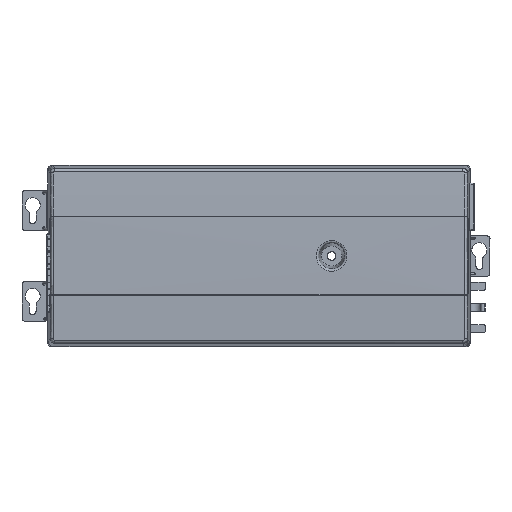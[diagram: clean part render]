
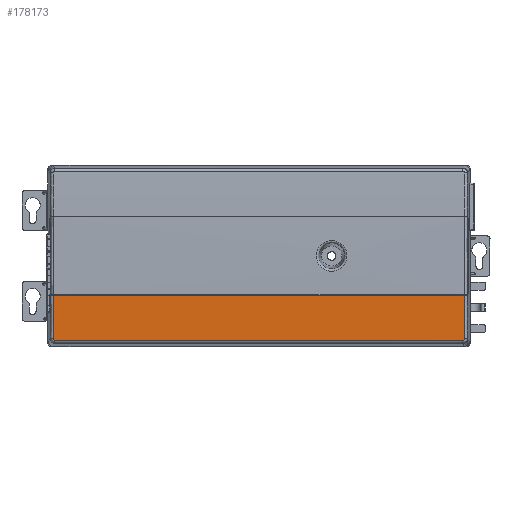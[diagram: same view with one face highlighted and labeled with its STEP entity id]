
A CAD part, top view. The second image highlights one B-rep face of the part: STEP entity #178173.
In plain terms, the highlighted cylindrical face has radius 1200 mm (diameter 2400 mm), a partial arc.
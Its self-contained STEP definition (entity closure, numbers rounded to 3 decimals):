
#1386=B_SPLINE_CURVE_WITH_KNOTS('',3,(#244995,#244996,#244997,#244998),
 .UNSPECIFIED.,.F.,.F.,(4,4),(0.,1.),.UNSPECIFIED.);
#1387=B_SPLINE_CURVE_WITH_KNOTS('',3,(#245000,#245001,#245002,#245003,#245004),
 .UNSPECIFIED.,.F.,.F.,(4,1,4),(0.009,0.067,0.156),
 .UNSPECIFIED.);
#1388=B_SPLINE_CURVE_WITH_KNOTS('',3,(#245006,#245007,#245008,#245009),
 .UNSPECIFIED.,.F.,.F.,(4,4),(0.,1.),.UNSPECIFIED.);
#1389=B_SPLINE_CURVE_WITH_KNOTS('',3,(#245010,#245011,#245012,#245013),
 .UNSPECIFIED.,.F.,.F.,(4,4),(0.,1.),.UNSPECIFIED.);
#1390=B_SPLINE_CURVE_WITH_KNOTS('',3,(#245015,#245016,#245017,#245018,#245019,
#245020),.UNSPECIFIED.,.F.,.F.,(4,1,1,4),(0.,0.067,0.112,
0.147),.UNSPECIFIED.);
#1391=B_SPLINE_CURVE_WITH_KNOTS('',3,(#245022,#245023,#245024,#245025),
 .UNSPECIFIED.,.F.,.F.,(4,4),(0.,1.),.UNSPECIFIED.);
#9422=LINE('',#240218,#21312);
#9444=LINE('',#240795,#21334);
#21312=VECTOR('',#199460,1000.);
#21334=VECTOR('',#199578,1000.);
#36489=ORIENTED_EDGE('',*,*,#72432,.F.);
#36490=ORIENTED_EDGE('',*,*,#73670,.F.);
#36491=ORIENTED_EDGE('',*,*,#73671,.F.);
#36492=ORIENTED_EDGE('',*,*,#73672,.F.);
#36493=ORIENTED_EDGE('',*,*,#72341,.F.);
#36494=ORIENTED_EDGE('',*,*,#73673,.F.);
#36495=ORIENTED_EDGE('',*,*,#73674,.F.);
#36496=ORIENTED_EDGE('',*,*,#73675,.F.);
#72341=EDGE_CURVE('',#91310,#91311,#9422,.T.);
#72432=EDGE_CURVE('',#91382,#91383,#9444,.T.);
#73670=EDGE_CURVE('',#92354,#91382,#1386,.T.);
#73671=EDGE_CURVE('',#92355,#92354,#1387,.T.);
#73672=EDGE_CURVE('',#91311,#92355,#1388,.T.);
#73673=EDGE_CURVE('',#92356,#91310,#1389,.T.);
#73674=EDGE_CURVE('',#92357,#92356,#1390,.T.);
#73675=EDGE_CURVE('',#91383,#92357,#1391,.T.);
#91310=VERTEX_POINT('',#240217);
#91311=VERTEX_POINT('',#240219);
#91382=VERTEX_POINT('',#240794);
#91383=VERTEX_POINT('',#240796);
#92354=VERTEX_POINT('',#244999);
#92355=VERTEX_POINT('',#245005);
#92356=VERTEX_POINT('',#245014);
#92357=VERTEX_POINT('',#245021);
#107692=EDGE_LOOP('',(#36489,#36490,#36491,#36492,#36493,#36494,#36495,
#36496));
#115889=FACE_BOUND('',#107692,.T.);
#123585=CYLINDRICAL_SURFACE('',#186558,1200.);
#178173=ADVANCED_FACE('',(#115889),#123585,.T.);
#186558=AXIS2_PLACEMENT_3D('',#244994,#201349,#201350);
#199460=DIRECTION('',(-1.,0.,0.));
#199578=DIRECTION('',(1.,0.,0.));
#201349=DIRECTION('',(-1.,0.,0.));
#201350=DIRECTION('',(0.,0.,-1.));
#240217=CARTESIAN_POINT('',(86.751,-55.806,54.002));
#240218=CARTESIAN_POINT('',(-187.5,-55.806,54.002));
#240219=CARTESIAN_POINT('',(-182.751,-55.806,54.002));
#240794=CARTESIAN_POINT('',(-183.693,-25.909,55.02));
#240795=CARTESIAN_POINT('',(-187.5,-25.909,55.02));
#240796=CARTESIAN_POINT('',(87.693,-25.909,55.02));
#244994=CARTESIAN_POINT('',(-187.5,0.,-1144.7));
#244995=CARTESIAN_POINT('',(-183.744,-54.799,54.048));
#244996=CARTESIAN_POINT('',(-183.722,-45.173,54.488));
#244997=CARTESIAN_POINT('',(-183.704,-35.542,54.812));
#244998=CARTESIAN_POINT('',(-183.693,-25.909,55.02));
#244999=CARTESIAN_POINT('',(-183.744,-54.799,54.048));
#245000=CARTESIAN_POINT('',(-182.841,-55.802,54.002));
#245001=CARTESIAN_POINT('',(-183.034,-55.783,54.003));
#245002=CARTESIAN_POINT('',(-183.514,-55.591,54.012));
#245003=CARTESIAN_POINT('',(-183.745,-55.097,54.035));
#245004=CARTESIAN_POINT('',(-183.744,-54.799,54.048));
#245005=CARTESIAN_POINT('',(-182.841,-55.802,54.002));
#245006=CARTESIAN_POINT('',(-182.751,-55.806,54.002));
#245007=CARTESIAN_POINT('',(-182.781,-55.806,54.002));
#245008=CARTESIAN_POINT('',(-182.811,-55.804,54.002));
#245009=CARTESIAN_POINT('',(-182.841,-55.802,54.002));
#245010=CARTESIAN_POINT('',(86.841,-55.802,54.002));
#245011=CARTESIAN_POINT('',(86.811,-55.804,54.002));
#245012=CARTESIAN_POINT('',(86.781,-55.806,54.002));
#245013=CARTESIAN_POINT('',(86.751,-55.806,54.002));
#245014=CARTESIAN_POINT('',(86.841,-55.802,54.002));
#245015=CARTESIAN_POINT('',(87.744,-54.799,54.048));
#245016=CARTESIAN_POINT('',(87.745,-55.022,54.038));
#245017=CARTESIAN_POINT('',(87.618,-55.397,54.021));
#245018=CARTESIAN_POINT('',(87.224,-55.717,54.006));
#245019=CARTESIAN_POINT('',(86.96,-55.791,54.002));
#245020=CARTESIAN_POINT('',(86.841,-55.802,54.002));
#245021=CARTESIAN_POINT('',(87.744,-54.799,54.048));
#245022=CARTESIAN_POINT('',(87.693,-25.909,55.02));
#245023=CARTESIAN_POINT('',(87.705,-35.542,54.812));
#245024=CARTESIAN_POINT('',(87.721,-45.173,54.488));
#245025=CARTESIAN_POINT('',(87.744,-54.799,54.048));
